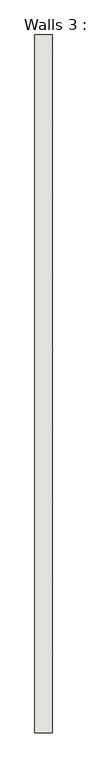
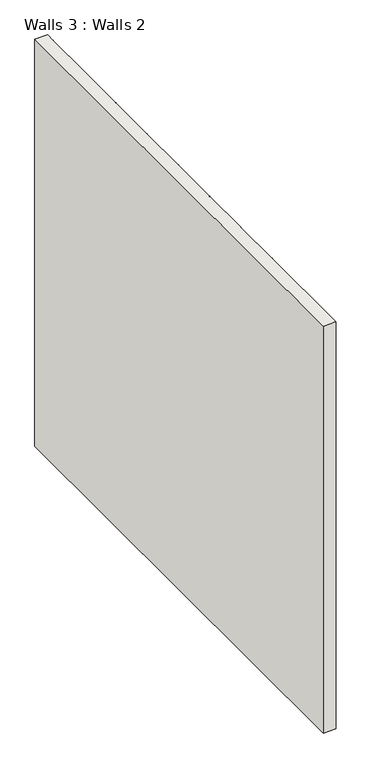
"""IFC4 building model written with IfcOpenShell, lengths in millimetres: wall geometry, Walls 3 : Walls 2."""

from ifc_helpers import new_model, si_unit, frame, origin, place, context, project, spatial, polyline, outline, extrude, source, transform, mapped, element, save


def walls_3_walls_2_d2d95a10(model_context):
    return source(origin(), model_context, "Body", "SweptSolid", [
        extrude(outline(polyline([(19635.9536405, 450.3490616), (19635.9536405, 3904.1688155), (19722.9536405, 3904.1688155), (19722.9536405, 3840.1548166), (19724.8336405, 3838.2748166), (19722.9536405, 3836.3948166), (19722.9536405, 3465.1548166), (19724.8336405, 3463.2748166), (19722.9536405, 3461.3948166), (19722.9536405, 3090.1548166), (19724.8336405, 3088.2748166), (19722.9536405, 3086.3948166), (19722.9536405, 2715.1548166), (19724.8336405, 2713.2748166), (19722.9536405, 2711.3948166), (19722.9536405, 2340.1548166), (19724.8336405, 2338.2748166), (19722.9536405, 2336.3948166), (19722.9536405, 1965.1548166), (19724.8336405, 1963.2748166), (19722.9536405, 1961.3948166), (19722.9536405, 1590.1548166), (19724.8336405, 1588.2748166), (19722.9536405, 1586.3948166), (19722.9536405, 1215.1548166), (19724.8336405, 1213.2748166), (19722.9536405, 1211.3948166), (19722.9536405, 840.1548166), (19724.8336405, 838.2748166), (19722.9536405, 836.3948166), (19722.9536405, 450.3490616), (19635.9536405, 450.3490616)])), frame((0.0, 0.0, 340.0), z_axis=(0.0, 0.0, 1.0), x_axis=(1.0, 0.0, 0.0)), (0.0, 0.0, 1.0), 2971.0),
    ])


if __name__ == "__main__":
    model = new_model("IFC4")
    model_context = context("Model", 3, world=origin())
    ifc_project = project(units=[si_unit("LENGTHUNIT", "METRE", prefix="MILLI")], contexts=[model_context])
    site = spatial("IfcSite", under=ifc_project)
    building = spatial("IfcBuilding", under=site)
    placement = place(None, origin())
    walls_3_walls_2_shape = walls_3_walls_2_d2d95a10(model_context)
    element("IfcWall", 1, ObjectType="Walls 3 : Walls 2", at=placement, inside=building, context=model_context, shape_type="MappedRepresentation", body=[
        mapped(walls_3_walls_2_shape, transform((0.0, 0.0, 0.0), x_axis=(1.0, 0.0, 0.0), y_axis=(0.0, 1.0, 0.0), z_axis=(0.0, 0.0, 1.0))),
    ])
    save(model, "model.ifc")
